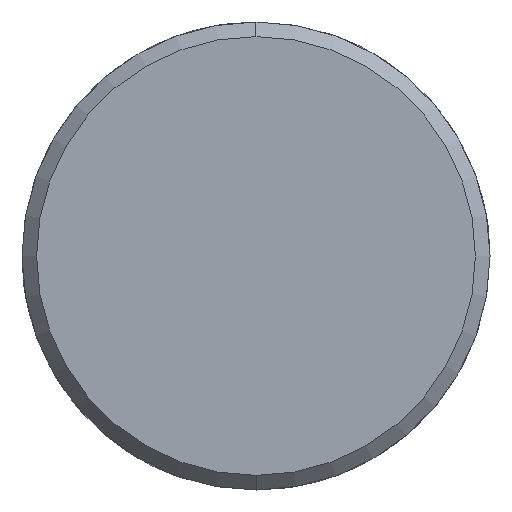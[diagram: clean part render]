
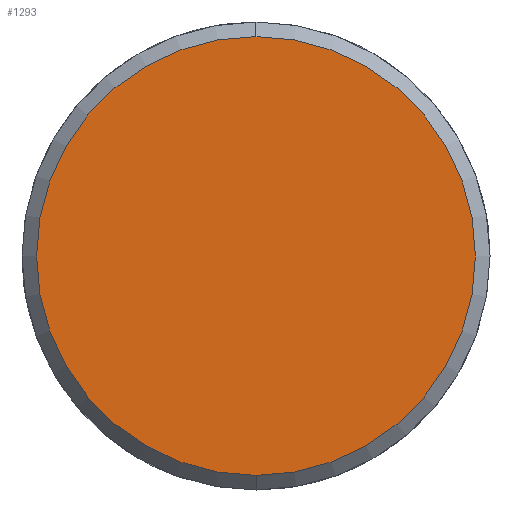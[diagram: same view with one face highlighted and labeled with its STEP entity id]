
A CAD part, left-side view. The second image highlights one B-rep face of the part: STEP entity #1293.
In plain terms, the highlighted planar face has unit normal (-1, 0, 0).
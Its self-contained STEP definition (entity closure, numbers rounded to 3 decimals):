
#1225=CARTESIAN_POINT('Vertex',(-6.,0.,-15.)) ;
#1228=CARTESIAN_POINT('Axis2P3D Location',(-6.,0.,0.)) ;
#1232=CARTESIAN_POINT('Vertex',(-6.,15.,0.)) ;
#1235=CARTESIAN_POINT('Axis2P3D Location',(-6.,0.,0.)) ;
#1239=CARTESIAN_POINT('Vertex',(-6.,0.,15.)) ;
#1261=CARTESIAN_POINT('Axis2P3D Location',(-6.,0.,0.)) ;
#1265=CARTESIAN_POINT('Vertex',(-6.,-15.,0.)) ;
#1268=CARTESIAN_POINT('Axis2P3D Location',(-6.,0.,0.)) ;
#1282=CARTESIAN_POINT('Axis2P3D Location',(-6.,0.,0.)) ;
#1229=DIRECTION('Axis2P3D Direction',(1.,0.,-0.)) ;
#1236=DIRECTION('Axis2P3D Direction',(1.,0.,-0.)) ;
#1262=DIRECTION('Axis2P3D Direction',(1.,0.,-0.)) ;
#1269=DIRECTION('Axis2P3D Direction',(1.,0.,-0.)) ;
#1283=DIRECTION('Axis2P3D Direction',(1.,0.,-0.)) ;
#1284=DIRECTION('Axis2P3D XDirection',(-0.,0.,-1.)) ;
#1230=AXIS2_PLACEMENT_3D('Circle Axis2P3D',#1228,#1229,$) ;
#1237=AXIS2_PLACEMENT_3D('Circle Axis2P3D',#1235,#1236,$) ;
#1263=AXIS2_PLACEMENT_3D('Circle Axis2P3D',#1261,#1262,$) ;
#1270=AXIS2_PLACEMENT_3D('Circle Axis2P3D',#1268,#1269,$) ;
#1285=AXIS2_PLACEMENT_3D('Plane Axis2P3D',#1282,#1283,#1284) ;
#1288=ORIENTED_EDGE('',*,*,#1234,.F.) ;
#1289=ORIENTED_EDGE('',*,*,#1272,.F.) ;
#1290=ORIENTED_EDGE('',*,*,#1267,.F.) ;
#1291=ORIENTED_EDGE('',*,*,#1241,.F.) ;
#1293=ADVANCED_FACE('351-20X26X100',(#1292),#1286,.F.) ;
#1231=CIRCLE('generated circle',#1230,15.) ;
#1238=CIRCLE('generated circle',#1237,15.) ;
#1264=CIRCLE('generated circle',#1263,15.) ;
#1271=CIRCLE('generated circle',#1270,15.) ;
#1234=EDGE_CURVE('',#1226,#1233,#1231,.T.) ;
#1241=EDGE_CURVE('',#1233,#1240,#1238,.T.) ;
#1267=EDGE_CURVE('',#1240,#1266,#1264,.T.) ;
#1272=EDGE_CURVE('',#1266,#1226,#1271,.T.) ;
#1287=EDGE_LOOP('',(#1288,#1289,#1290,#1291)) ;
#1292=FACE_OUTER_BOUND('',#1287,.T.) ;
#1286=PLANE('Plane',#1285) ;
#1226=VERTEX_POINT('',#1225) ;
#1233=VERTEX_POINT('',#1232) ;
#1240=VERTEX_POINT('',#1239) ;
#1266=VERTEX_POINT('',#1265) ;
